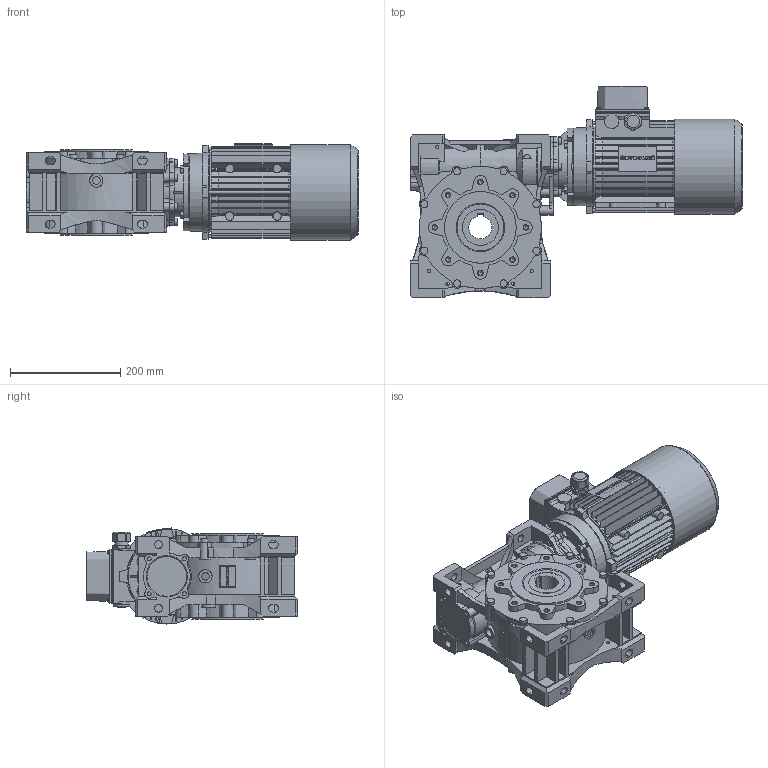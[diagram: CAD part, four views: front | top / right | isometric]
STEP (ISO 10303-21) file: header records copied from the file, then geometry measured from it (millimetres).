
FILE_DESCRIPTION(/* description */ ('STEP AP203'),/* implementation_level */ '2;1');
FILE_NAME(/* name */ 'NMRVP 110 140x24 42 NO NO - - NO - - - NO TP 090L 90L41-(-----IC411NONO------STD)',/* time_stamp */ '2023-05-08T10:10:13+02:00',/* author */ ('License CC BY-ND 4.0'),/* organization */ ('CADENAS'),/* preprocessor_version */ 'ST-DEVELOPER v19.3',/* originating_system */ 'PARTsolutions',/* authorisation */ ' ');
FILE_SCHEMA (('CONFIG_CONTROL_DESIGN'));
Length unit declared in the file: millimetre
Products named in the file (13): NMRVP 110 140x24 42 NO NO - - NO - - - NO TP 090L 90L41-(-----IC411NO
NO------STD); 110-65; ALBERO_TP090L24X50NO; TIPPO_25; PRESSACAVO_3; COPRIMORSETTIERA_TP090LA002; COP_TP_90L4_IC411_NO_-_-_-_-_STD; CARCASSA_TP90L4090LIC411B1424X50NONO--; FLANGIA_TP090LB14-; 11090 B14; W.110.14.24.M-p; 110-42 (155); W.110.01.M
Assembly tree (12 placements, depth 2):
  NMRVP 110 140x24 42 NO NO - - NO - - - NO TP 090L 90L41-(-----IC411NO
NO------STD)
    110-65
    ALBERO_TP090L24X50NO
    TIPPO_25
    PRESSACAVO_3
    COPRIMORSETTIERA_TP090LA002
    COP_TP_90L4_IC411_NO_-_-_-_-_STD
    CARCASSA_TP90L4090LIC411B1424X50NONO--
    FLANGIA_TP090LB14-
    11090 B14
    W.110.14.24.M-p
    110-42 (155)
    W.110.01.M
Bounding box: 601.5 x 383.6 x 174.15 mm (x, y, z)
Volume: 14416309.3 mm3; surface area: 1183551.6 mm2
Topology: 12 solids, 16 shells, 3231 faces, 8827 edges, 5818 vertices
Faces by surface type: plane 1648, cylinder 1380, cone 185, torus 12, sphere 5, bspline 1
Full cylindrical faces by diameter (mm): 1.8 x1, 2.02 x1, 5.5 x2, 6 x14, 6.647 x1, 7.45 x12, 7.65 x4, 8 x12, 8.376 x16, 8.4 x1, 13 x14, 13.5 x6, 14 x8, 14.5 x2, 24 x3, 25 x4, 30 x1, 39 x1, 41 x1, 55 x1, 56 x1, 63 x1, 65 x3, 81 x1, 90 x3, 95 x1, 130 x2, 140 x2, 145.5 x2, 172.9 x1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
Entity records: 121089 total; most frequent: CARTESIAN_POINT 19226, DIRECTION 17797, ORIENTED_EDGE 17170, EDGE_CURVE 8585, AXIS2_PLACEMENT_3D 6413, VERTEX_POINT 5776, LINE 4971, VECTOR 4971
